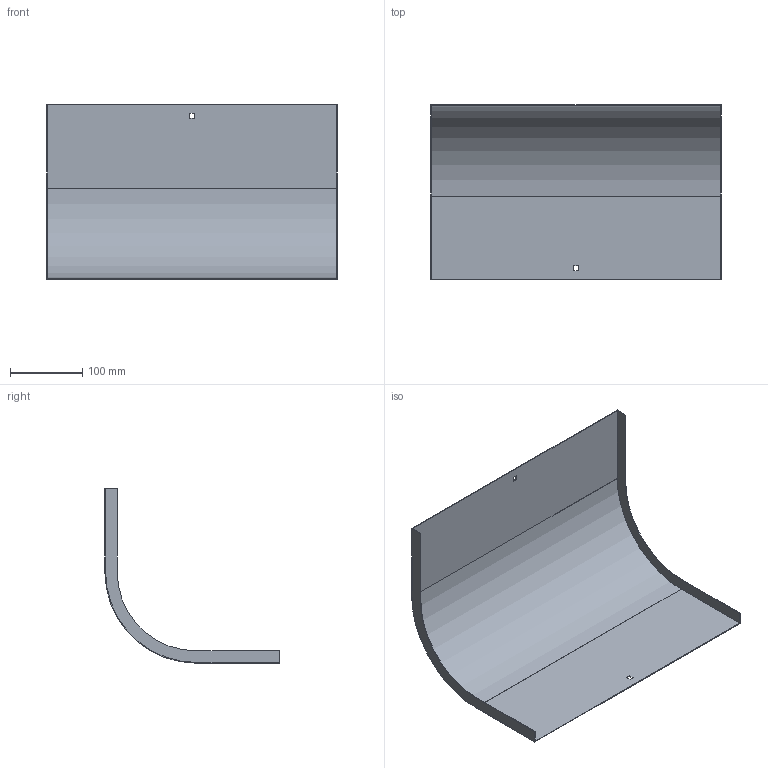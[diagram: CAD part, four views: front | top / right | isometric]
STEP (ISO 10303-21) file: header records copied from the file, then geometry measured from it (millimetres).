
FILE_DESCRIPTION (( 'STEP AP214' ), '1' );
FILE_NAME ('OD9_407.step', '2025-07-16T09:13:32', ( '' ), ( '' ), 'SwSTEP 2.0', 'SolidWorks 2023', '' );
FILE_SCHEMA (( 'AUTOMOTIVE_DESIGN' ));
Length unit declared in the file: millimetre
Products named in the file (1): OD9_407
Bounding box: 402 x 241 x 241 mm (x, y, z)
Volume: 184865.3 mm3; surface area: 371454.6 mm2
Topology: 1 solids, 1 shells, 26 faces, 72 edges, 48 vertices
Faces by surface type: plane 22, cylinder 4
Entity records: 855 total; most frequent: CARTESIAN_POINT 147, ORIENTED_EDGE 144, DIRECTION 134, EDGE_CURVE 72, LINE 64, VECTOR 64, VERTEX_POINT 48, AXIS2_PLACEMENT_3D 35
